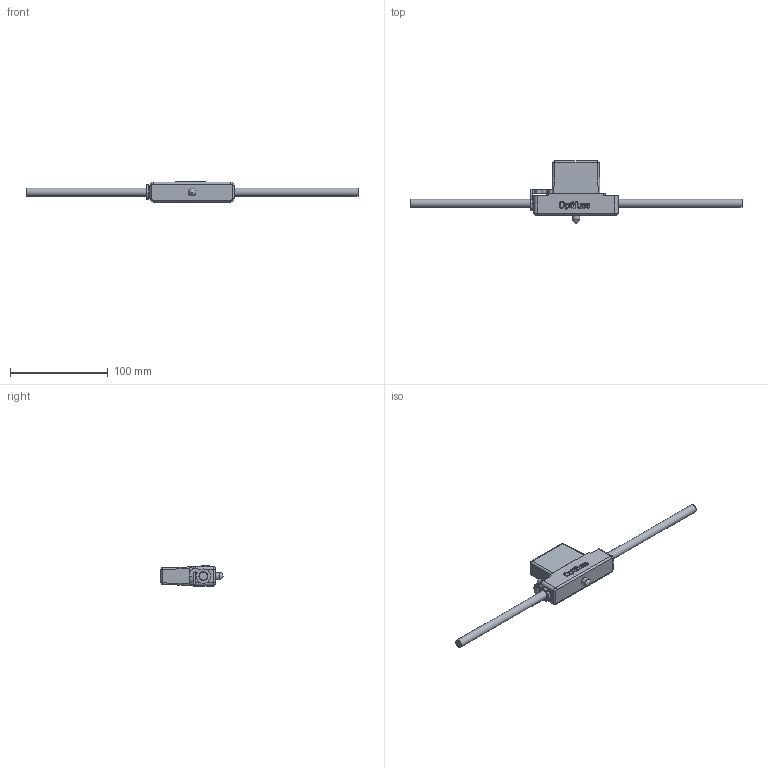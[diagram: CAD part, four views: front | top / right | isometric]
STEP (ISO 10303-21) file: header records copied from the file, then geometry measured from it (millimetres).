
FILE_DESCRIPTION(/* description */ (''),/* implementation_level */ '2;1');
FILE_NAME(/* name */ 'C:\Users\Hani\Desktop\work\LPX-04B\LPX-04-I.stp',/* time_stamp */ '2021-07-17T11:27:47-07:00',/* author */ ('Hani'),/* organization */ (''),/* preprocessor_version */ 'ST-DEVELOPER v17',/* originating_system */ 'Autodesk Inventor 2019',/* authorisation */ '');
FILE_SCHEMA (('AUTOMOTIVE_DESIGN { 1 0 10303 214 3 1 1 }'));
Length unit declared in the file: inch
Products named in the file (1): LPX-04-I
Bounding box: 340.11 x 63.53 x 20.57 mm (x, y, z)
Volume: 63827.9 mm3; surface area: 25098.9 mm2
Topology: 3 solids, 3 shells, 212 faces, 544 edges, 355 vertices
Faces by surface type: plane 105, bspline 78, cylinder 25, sphere 4
Full cylindrical faces by diameter (mm): 7.823 x1, 8.331 x2, 9.144 x1
Entity records: 7648 total; most frequent: CARTESIAN_POINT 2906, ORIENTED_EDGE 1088, DIRECTION 723, EDGE_CURVE 544, VERTEX_POINT 355, LINE 337, VECTOR 337, EDGE_LOOP 231
